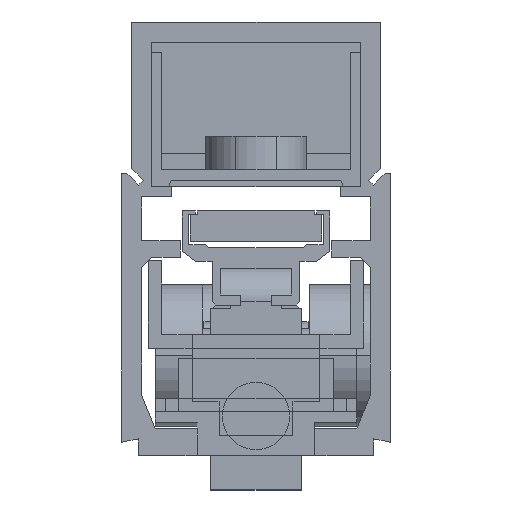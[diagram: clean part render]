
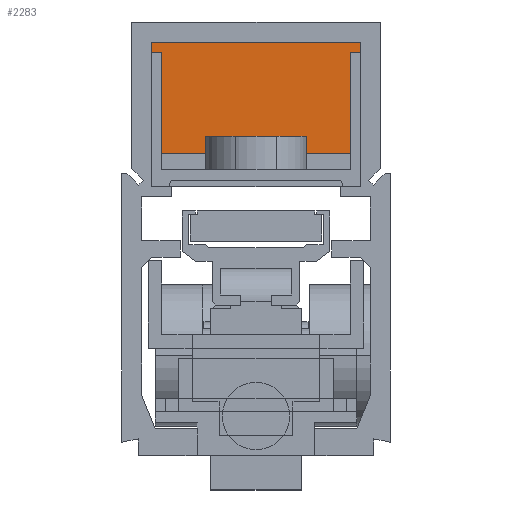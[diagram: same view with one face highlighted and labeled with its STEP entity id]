
A CAD part, left-side view. The second image highlights one B-rep face of the part: STEP entity #2283.
In plain terms, the highlighted planar face has unit normal (-1, 0, 0).
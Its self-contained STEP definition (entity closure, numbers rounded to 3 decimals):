
#2283=ADVANCED_FACE('',(#5211),#5212,.T.);
#5211=FACE_OUTER_BOUND('',#8890,.T.);
#5212=PLANE('',#8891);
#8890=EDGE_LOOP('',(#15125,#15126,#15127,#15128));
#8891=AXIS2_PLACEMENT_3D('',#15129,#15130,#15131);
#15125=ORIENTED_EDGE('',*,*,#23488,.T.);
#15126=ORIENTED_EDGE('',*,*,#23598,.T.);
#15127=ORIENTED_EDGE('',*,*,#23599,.T.);
#15128=ORIENTED_EDGE('',*,*,#23600,.T.);
#15129=CARTESIAN_POINT('',(0.,0.0,10.25));
#15130=DIRECTION('',(-1.0,0.,0.0));
#15131=DIRECTION('',(0.0,0.0,-1.0));
#23488=EDGE_CURVE('',#28426,#28424,#28427,.T.);
#23598=EDGE_CURVE('',#28424,#28584,#28585,.T.);
#23599=EDGE_CURVE('',#28584,#28586,#28587,.T.);
#23600=EDGE_CURVE('',#28586,#28426,#28588,.T.);
#28424=VERTEX_POINT('',#35505);
#28426=VERTEX_POINT('',#35508);
#28427=LINE('',#35509,#35510);
#28584=VERTEX_POINT('',#35718);
#28585=LINE('',#35719,#35720);
#28586=VERTEX_POINT('',#35721);
#28587=LINE('',#35722,#35723);
#28588=LINE('',#35724,#35725);
#35505=CARTESIAN_POINT('',(0.,-15.5,5.0));
#35508=CARTESIAN_POINT('',(0.,15.5,5.0));
#35509=CARTESIAN_POINT('',(0.,-1675.291,5.0));
#35510=VECTOR('',#43101,1.0);
#35718=CARTESIAN_POINT('',(0.,-15.5,21.5));
#35719=CARTESIAN_POINT('',(0.,-15.5,0.0));
#35720=VECTOR('',#43228,1.0);
#35721=CARTESIAN_POINT('',(0.,15.5,21.5));
#35722=CARTESIAN_POINT('',(0.,-15.0,21.5));
#35723=VECTOR('',#43229,1.0);
#35724=CARTESIAN_POINT('',(0.,15.5,20.5));
#35725=VECTOR('',#43230,1.0);
#43101=DIRECTION('',(0.,-1.0,0.0));
#43228=DIRECTION('',(0.0,0.0,1.0));
#43229=DIRECTION('',(0.,1.0,0.0));
#43230=DIRECTION('',(0.0,-0.0,-1.0));
